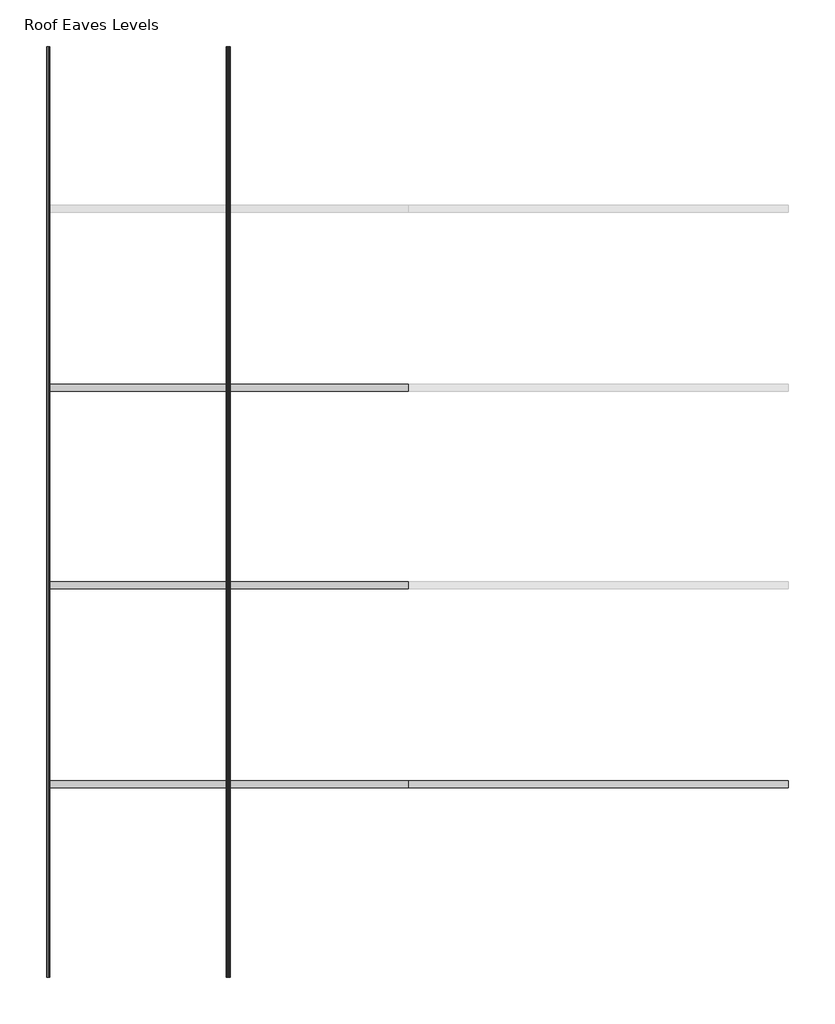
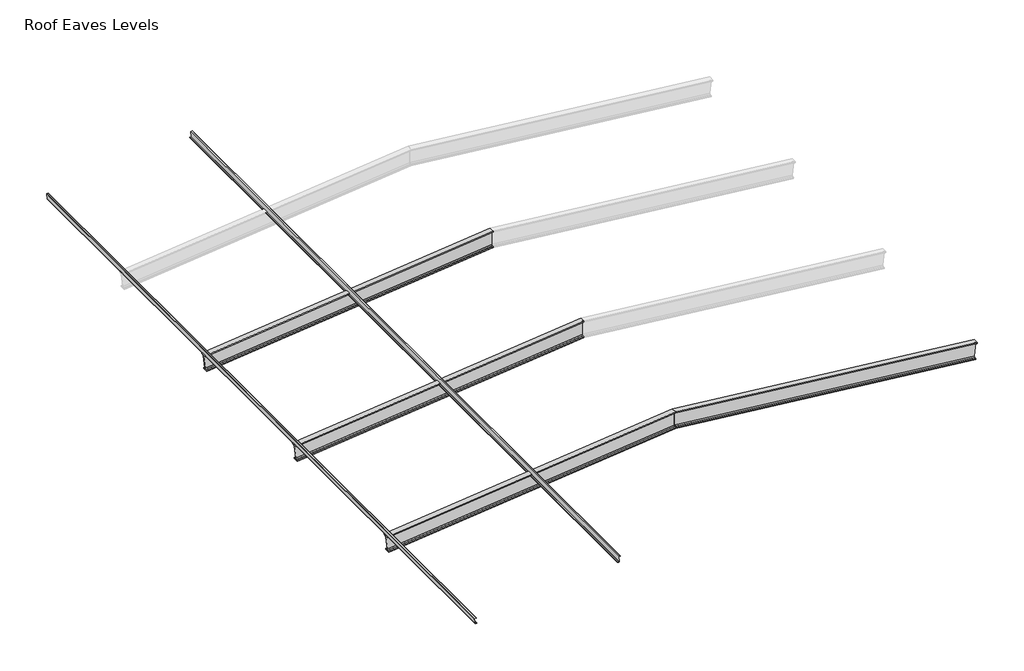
# One storey, part 1 of 2: 6 beams.
"""IFC4 building model written with IfcOpenShell, lengths in millimetres."""

import ifcopenshell
import ifcopenshell.guid

model = None  # the IFC model being written
_history = None  # IfcOwnerHistory: only IFC2X3 demands one
_inside = {}  # id of a spatial element -> (the spatial element, [elements in it])
_under = {}  # id of a project, library or spatial element -> (it, [spatial elements below it])
_declared = {}  # id of a project -> (the project, [libraries it declares])
_typed = {}  # id of a type object -> (the type object, [elements of that type])
_made_of = {}  # id of a material, layer set ... -> (it, [elements and type objects made of it])


def new_model(schema):
    """Start an empty IFC model of exactly this schema.

    Asked for "IFC4X3", IfcOpenShell would pick the latest addendum, in which some entities
    have other attributes; the version numbers below select the first issue.
    IFC2X3 requires an IfcOwnerHistory on every rooted entity: one is made here for all.
    """
    global model, _history
    if schema == "IFC4X3":
        model = ifcopenshell.file(schema_version=(4, 3, 0, 0))
    else:
        model = ifcopenshell.file(schema=schema)
    _inside.clear()
    _under.clear()
    _declared.clear()
    _typed.clear()
    _made_of.clear()
    _history = None
    if model.schema == "IFC2X3":
        org = make("IfcOrganization", Name="unknown")
        user = make(
            "IfcPersonAndOrganization",
            ThePerson=make("IfcPerson", FamilyName="unknown"),
            TheOrganization=org,
        )
        app = make(
            "IfcApplication",
            ApplicationDeveloper=org,
            Version="unknown",
            ApplicationFullName="unknown",
            ApplicationIdentifier="unknown",
        )
        _history = make(
            "IfcOwnerHistory",
            OwningUser=user,
            OwningApplication=app,
            ChangeAction="ADDED",
            CreationDate=0,
        )
    return model


def make(cls, **values):
    """One entity of the class cls with the attributes given. An attribute that is None is left unset."""
    return model.create_entity(
        cls, **{name: value for name, value in values.items() if value is not None}
    )


def rooted(cls, **values):
    """An entity with a GlobalId (a new one), such as an element, a storey or a relation."""
    return make(cls, GlobalId=ifcopenshell.guid.new(), OwnerHistory=_history, **values)


def si_unit(unit_type, name, prefix=None):
    """IfcSIUnit, for example si_unit("LENGTHUNIT", "METRE", prefix="MILLI")."""
    return make("IfcSIUnit", UnitType=unit_type, Prefix=prefix, Name=name)


def assignment(units):
    """IfcUnitAssignment: the units of a project."""
    return None if units is None else make("IfcUnitAssignment", Units=units)


def point(xyz):
    """IfcCartesianPoint."""
    return None if xyz is None else make("IfcCartesianPoint", Coordinates=xyz)


def direction(xyz):
    """IfcDirection."""
    return None if xyz is None else make("IfcDirection", DirectionRatios=xyz)


def frame(location, z_axis=None, x_axis=None):
    """IfcAxis2Placement3D, a coordinate frame: its origin and axes. An axis left out is left unset."""
    return make(
        "IfcAxis2Placement3D",
        Location=point(location),
        Axis=direction(z_axis),
        RefDirection=direction(x_axis),
    )


def frame_2d(location, x_axis=None):
    """IfcAxis2Placement2D, a coordinate frame in the plane: its origin and x axis."""
    return make(
        "IfcAxis2Placement2D", Location=point(location), RefDirection=direction(x_axis)
    )


def origin():
    """The frame at (0, 0, 0) with its axes left unset."""
    return frame((0.0, 0.0, 0.0))


def place(relative_to, where):
    """IfcLocalPlacement: puts the frame where relative to a parent placement (None: the world)."""
    return make(
        "IfcLocalPlacement", PlacementRelTo=relative_to, RelativePlacement=where
    )


def context(
    kind, dimensions, precision=None, world=None, true_north=None, identifier=None
):
    """IfcGeometricRepresentationContext, for example the 3D "Model" context."""
    return make(
        "IfcGeometricRepresentationContext",
        ContextIdentifier=identifier,
        ContextType=kind,
        CoordinateSpaceDimension=dimensions,
        Precision=precision,
        WorldCoordinateSystem=world,
        TrueNorth=true_north,
    )


def project(units=None, contexts=None):
    """IfcProject with its units and contexts."""
    return rooted(
        "IfcProject",
        Name="project",
        RepresentationContexts=contexts,
        UnitsInContext=assignment(units),
    )


def spatial(cls, under=None, at=None, **own):
    """A site, building, storey or space (cls), placed at a placement, below another one or the project."""
    s = rooted(cls, ObjectPlacement=at, **own)
    if under is not None:
        _under.setdefault(under.id(), (under, []))[1].append(s)
    return s


def polyline(points):
    """IfcPolyline through the points."""
    return make("IfcPolyline", Points=[point(p) for p in points])


def circle_curve(where, radius):
    """IfcCircle in the frame where."""
    return make("IfcCircle", Position=where, Radius=radius)


def ellipse_curve(where, semi_axis1, semi_axis2):
    """IfcEllipse in the frame where."""
    return make(
        "IfcEllipse", Position=where, SemiAxis1=semi_axis1, SemiAxis2=semi_axis2
    )


def trimmed(basis, trim1, trim2, sense, master):
    """IfcTrimmedCurve: the piece of a basis curve between two trims."""
    return make(
        "IfcTrimmedCurve",
        BasisCurve=basis,
        Trim1=trim1,
        Trim2=trim2,
        SenseAgreement=sense,
        MasterRepresentation=master,
    )


def segment(curve, same_sense, transition):
    """IfcCompositeCurveSegment."""
    return make(
        "IfcCompositeCurveSegment",
        Transition=transition,
        SameSense=same_sense,
        ParentCurve=curve,
    )


def composite_curve(segments, self_intersect=None):
    """IfcCompositeCurve: segments joined end to end."""
    return make("IfcCompositeCurve", Segments=segments, SelfIntersect=self_intersect)


def outline(outer, holes=None, kind="AREA"):
    """IfcArbitraryClosedProfileDef: a profile drawn as a closed curve; with holes, ...WithVoids."""
    if holes is None:
        return make("IfcArbitraryClosedProfileDef", ProfileType=kind, OuterCurve=outer)
    return make(
        "IfcArbitraryProfileDefWithVoids",
        ProfileType=kind,
        OuterCurve=outer,
        InnerCurves=holes,
    )


def extrude(swept, where, along, depth):
    """IfcExtrudedAreaSolid: the profile swept, set in the frame where, extruded along a direction by depth."""
    return make(
        "IfcExtrudedAreaSolid",
        SweptArea=swept,
        Position=where,
        ExtrudedDirection=direction(along),
        Depth=depth,
    )


def shape(context_of_items, identifier, shape_type, items):
    """IfcShapeRepresentation: the items that make up one representation, for example the "Body"."""
    return make(
        "IfcShapeRepresentation",
        ContextOfItems=context_of_items,
        RepresentationIdentifier=identifier,
        RepresentationType=shape_type,
        Items=items,
    )


def source(mapping_origin, context_of_items, identifier, shape_type, items):
    """IfcRepresentationMap: a shape defined once, which mapped items show again and again."""
    return make(
        "IfcRepresentationMap",
        MappingOrigin=mapping_origin,
        MappedRepresentation=shape(context_of_items, identifier, shape_type, items),
    )


def transform(
    local_origin,
    x_axis=None,
    y_axis=None,
    z_axis=None,
    scale=None,
    scale2=None,
    scale3=None,
    uniform=True,
):
    """IfcCartesianTransformationOperator3D, or its non-uniform kind. x_axis, y_axis, z_axis: its Axis1, 2, 3."""
    if uniform:
        return make(
            "IfcCartesianTransformationOperator3D",
            Axis1=direction(x_axis),
            Axis2=direction(y_axis),
            LocalOrigin=point(local_origin),
            Scale=scale,
            Axis3=direction(z_axis),
        )
    return make(
        "IfcCartesianTransformationOperator3DnonUniform",
        Axis1=direction(x_axis),
        Axis2=direction(y_axis),
        LocalOrigin=point(local_origin),
        Scale=scale,
        Axis3=direction(z_axis),
        Scale2=scale2,
        Scale3=scale3,
    )


def mapped(mapping_source, mapping_target):
    """IfcMappedItem: shows the shape of a source again, moved by a transform."""
    return make(
        "IfcMappedItem", MappingSource=mapping_source, MappingTarget=mapping_target
    )


def made_of(thing, what):
    """Note that an element or type object is made of a material, layer set ...; save() writes the relation."""
    if what is not None:
        _made_of.setdefault(what.id(), (what, []))[1].append(thing)
    return thing


def element(
    cls,
    number,
    at=None,
    inside=None,
    cuts=None,
    type_object=None,
    material=None,
    context=None,
    identifier="Body",
    shape_type=None,
    held_by="IfcProductDefinitionShape",
    body=None,
    shapes=None,
    **own,
):
    """One element of the class cls, such as IfcWall. Its Tag is "e" and its number.

    at: its placement. inside: the storey or other place that contains it. cuts: it is an
    opening in that element (IfcRelVoidsElement). A single representation is given by context,
    identifier, shape_type and body (its items); several are given by shapes. held_by: the class
    of the entity that holds the representations. save() writes the other relations.
    """
    e = rooted(cls, Tag="e%d" % number, ObjectPlacement=at, **own)
    if body is not None:
        shapes = [shape(context, identifier, shape_type, body)]
    if shapes is not None:
        e.Representation = make(held_by, Representations=shapes)
    if inside is not None:
        _inside.setdefault(inside.id(), (inside, []))[1].append(e)
    if cuts is not None:
        rooted(
            "IfcRelVoidsElement", RelatingBuildingElement=cuts, RelatedOpeningElement=e
        )
    if type_object is not None:
        _typed.setdefault(type_object.id(), (type_object, []))[1].append(e)
    return made_of(e, material)


def aggregate(whole, parts):
    """IfcRelAggregates: a whole, such as a stair, and the parts it consists of."""
    return rooted("IfcRelAggregates", RelatingObject=whole, RelatedObjects=parts)


def save(model, path):
    """Write the relations noted so far, then the file.

    IfcRelAggregates (storeys below a building ...), IfcRelContainedInSpatialStructure (elements
    in a storey), IfcRelDefinesByType, IfcRelAssociatesMaterial and IfcRelDeclares: one each for
    every whole, place, type object, material and project.
    """
    for whole, parts in _under.values():
        aggregate(whole, parts)
    for where, things in _inside.values():
        rooted(
            "IfcRelContainedInSpatialStructure",
            RelatedElements=things,
            RelatingStructure=where,
        )
    for kind, things in _typed.values():
        rooted("IfcRelDefinesByType", RelatedObjects=things, RelatingType=kind)
    for what, things in _made_of.values():
        rooted("IfcRelAssociatesMaterial", RelatedObjects=things, RelatingMaterial=what)
    for by, libraries in _declared.values():
        rooted("IfcRelDeclares", RelatingContext=by, RelatedDefinitions=libraries)
    model.write(path)


def plane_surface(at):
    """IfcPlane: the flat surface through the origin of the frame at, square to its z axis."""
    return make("IfcPlane", Position=at)


def revolved_surface(curve, axis_point, axis_direction):
    """IfcSurfaceOfRevolution: the curve turned about the line through axis_point along axis_direction."""
    return make(
        "IfcSurfaceOfRevolution",
        SweptCurve=make("IfcArbitraryOpenProfileDef", ProfileType="CURVE", Curve=curve),
        AxisPosition=make("IfcAxis1Placement", Location=point(axis_point), Axis=direction(axis_direction)),
    )


def advanced_brep(points, edges, surfaces, faces):
    """IfcAdvancedBrep: a solid bounded by faces that lie on surfaces and meet in shared edges.

    An edge is (start, end): straight between two places in points (the first is 0);
    or (start, end, curve); or (start, end, curve, False) where it runs against its curve.
    A face is (place in surfaces, loops), or (place, loops, False) where it looks against
    its surface's normal. A loop lists edges by number (the first is 1), with a minus sign
    where the edge is run from its end to its start. The first loop is the outer one.
    """
    corners = [point(p) for p in points]
    vertices = [make("IfcVertexPoint", VertexGeometry=c) for c in corners]
    made = []
    for start, end, *more in edges:
        made.append(
            make(
                "IfcEdgeCurve",
                EdgeStart=vertices[start],
                EdgeEnd=vertices[end],
                EdgeGeometry=more[0] if more else make("IfcPolyline", Points=[corners[start], corners[end]]),
                SameSense=more[1] if len(more) > 1 else True,
            )
        )
    hull = []
    for where, loops, *sense in faces:
        bounds = []
        for j, loop in enumerate(loops):
            ring = [make("IfcOrientedEdge", EdgeElement=made[abs(k) - 1], Orientation=k > 0) for k in loop]
            bounds.append(
                make(
                    "IfcFaceOuterBound" if j == 0 else "IfcFaceBound",
                    Bound=make("IfcEdgeLoop", EdgeList=ring),
                    Orientation=True,
                )
            )
        hull.append(make("IfcAdvancedFace", Bounds=bounds, FaceSurface=surfaces[where], SameSense=sense[0] if sense else True))
    return make("IfcAdvancedBrep", Outer=make("IfcClosedShell", CfsFaces=hull))


def light_gauge_c_purlin_6e397828(model_context):
    return source(origin(), model_context, "Body", "SweptSolid", [
        extrude(outline(composite_curve([segment(trimmed(circle_curve(frame_2d((-46.7, 97.0)), 4.0), [point((-50.7, 97.0))], [point((-46.7, 101.0))], False, "CARTESIAN"), True, "CONTINUOUS"), segment(polyline([(-46.7, 101.0), (14.3, 101.0)]), True, "CONTINUOUS"), segment(trimmed(circle_curve(frame_2d((14.3, 97.0)), 4.0), [point((14.3, 101.0))], [point((18.3, 97.0))], False, "CARTESIAN"), True, "CONTINUOUS"), segment(polyline([(18.3, 97.0), (18.3, -97.0)]), True, "CONTINUOUS"), segment(trimmed(circle_curve(frame_2d((14.3, -97.0)), 4.0), [point((18.3, -97.0))], [point((14.3, -101.0))], False, "CARTESIAN"), True, "CONTINUOUS"), segment(polyline([(14.3, -101.0), (-46.7, -101.0)]), True, "CONTINUOUS"), segment(trimmed(circle_curve(frame_2d((-46.7, -97.0)), 4.0), [point((-46.7, -101.0))], [point((-50.7, -97.0))], False, "CARTESIAN"), True, "CONTINUOUS"), segment(polyline([(-50.7, -97.0), (-50.7, -87.0), (-48.7, -87.0), (-48.7, -97.0)]), True, "CONTINUOUS"), segment(trimmed(circle_curve(frame_2d((-46.7, -97.0)), 2.0), [point((-48.7, -97.0))], [point((-46.7, -99.0))], True, "CARTESIAN"), True, "CONTINUOUS"), segment(polyline([(-46.7, -99.0), (14.3, -99.0)]), True, "CONTINUOUS"), segment(trimmed(circle_curve(frame_2d((14.3, -97.0)), 2.0), [point((14.3, -99.0))], [point((16.3, -97.0))], True, "CARTESIAN"), True, "CONTINUOUS"), segment(polyline([(16.3, -97.0), (16.3, 97.0)]), True, "CONTINUOUS"), segment(trimmed(circle_curve(frame_2d((14.3, 97.0)), 2.0), [point((16.3, 97.0))], [point((14.3, 99.0))], True, "CARTESIAN"), True, "CONTINUOUS"), segment(polyline([(14.3, 99.0), (-46.7, 99.0)]), True, "CONTINUOUS"), segment(trimmed(circle_curve(frame_2d((-46.7, 97.0)), 2.0), [point((-46.7, 99.0))], [point((-48.7, 97.0))], True, "CARTESIAN"), True, "CONTINUOUS"), segment(polyline([(-48.7, 97.0), (-48.7, 87.0), (-50.7, 87.0), (-50.7, 97.0)]), True, "CONTINUOUS")], self_intersect=False)), frame((-12982.0, 0.0, 0.0), z_axis=(1.0, 0.0, 0.0), x_axis=(0.0, 1.0, 0.0)), (0.0, 0.0, 1.0), 25954.0),
    ])


def light_gauge_zeds_purlin_c0125321(model_context):
    return source(origin(), model_context, "Body", "SweptSolid", [
        extrude(outline(composite_curve([segment(trimmed(circle_curve(frame_2d((55.8, -97.9)), 4.0), [point((59.8, -97.9))], [point((55.8, -101.9))], False, "CARTESIAN"), True, "CONTINUOUS"), segment(polyline([(55.8, -101.9), (3.8, -101.9)]), True, "CONTINUOUS"), segment(trimmed(circle_curve(frame_2d((3.8, -97.9)), 4.0), [point((3.8, -101.9))], [point((-0.2, -97.9))], False, "CARTESIAN"), True, "CONTINUOUS"), segment(polyline([(-0.2, -97.9), (-0.2, 96.1)]), True, "CONTINUOUS"), segment(trimmed(circle_curve(frame_2d((-2.2, 96.1)), 2.0), [point((-0.2, 96.1))], [point((-2.2, 98.1))], True, "CARTESIAN"), True, "CONTINUOUS"), segment(polyline([(-2.2, 98.1), (-59.2, 98.1)]), True, "CONTINUOUS"), segment(trimmed(circle_curve(frame_2d((-59.2, 96.1)), 2.0), [point((-59.2, 98.1))], [point((-61.2, 96.1))], True, "CARTESIAN"), True, "CONTINUOUS"), segment(polyline([(-61.2, 96.1), (-61.2, 81.1), (-63.2, 81.1), (-63.2, 96.1)]), True, "CONTINUOUS"), segment(trimmed(circle_curve(frame_2d((-59.2, 96.1)), 4.0), [point((-63.2, 96.1))], [point((-59.2, 100.1))], False, "CARTESIAN"), True, "CONTINUOUS"), segment(polyline([(-59.2, 100.1), (-2.2, 100.1)]), True, "CONTINUOUS"), segment(trimmed(circle_curve(frame_2d((-2.2, 96.1)), 4.0), [point((-2.2, 100.1))], [point((1.8, 96.1))], False, "CARTESIAN"), True, "CONTINUOUS"), segment(polyline([(1.8, 96.1), (1.8, -97.9)]), True, "CONTINUOUS"), segment(trimmed(circle_curve(frame_2d((3.8, -97.9)), 2.0), [point((1.8, -97.9))], [point((3.8, -99.9))], True, "CARTESIAN"), True, "CONTINUOUS"), segment(polyline([(3.8, -99.9), (55.8, -99.9)]), True, "CONTINUOUS"), segment(trimmed(circle_curve(frame_2d((55.8, -97.9)), 2.0), [point((55.8, -99.9))], [point((57.8, -97.9))], True, "CARTESIAN"), True, "CONTINUOUS"), segment(polyline([(57.8, -97.9), (57.8, -80.9), (59.8, -80.9), (59.8, -97.9)]), True, "CONTINUOUS")], self_intersect=False)), frame((-12982.0, 0.0, 0.0), z_axis=(1.0, 0.0, 0.0), x_axis=(0.0, 1.0, 0.0)), (0.0, 0.0, 1.0), 25954.0),
    ])


model = new_model("IFC4")

# Units and contexts
model_context = context("Model", 3, world=origin())
ifc_project = project(units=[si_unit("LENGTHUNIT", "METRE", prefix="MILLI")], contexts=[model_context])

# Site, building, storey
site = spatial("IfcSite", under=ifc_project)
building = spatial("IfcBuilding", under=site)
storey = spatial("IfcBuildingStorey", under=building, Name="Roof Eaves Levels", Elevation=7900.0)

# Beams
placement = place(None, origin())
element("IfcBeam", 1, ObjectType="I-Beams : I600x190x16", at=placement, inside=storey, context=model_context, shape_type="AdvancedBrep", body=[
    advanced_brep(
    [(-21574.4385281, -16009.7846466, 7382.6858252), (-21570.7114031, -16009.7846466, 7347.8848404), (-21570.7114031, -16199.7846466, 7347.8848404), (-21574.4385281, -16199.7846466, 7382.6858252), (-21574.4385281, -16147.7846466, 7382.6858252), (-21578.1656531, -16112.7846466, 7417.4868099), (-21627.1507246, -16112.7846466, 7874.8711808), (-21630.8778496, -16147.7846466, 7909.6721656), (-21630.8778496, -16199.7846466, 7909.6721656), (-21634.6049746, -16199.7846466, 7944.4731503), (-21634.6049746, -16009.7846466, 7944.4731503), (-21630.8778496, -16009.7846466, 7909.6721656), (-21630.8778496, -16061.7846466, 7909.6721656), (-21627.1507246, -16096.7846466, 7874.8711808), (-21578.1656531, -16096.7846466, 7417.4868099), (-21574.4385281, -16061.7846466, 7382.6858252), (-11529.876801, -16061.7846466, 8458.4409363), (-11529.876801, -16009.7846466, 8458.4409363), (-11529.8856726, -16096.7846466, 8493.6401395), (-11530.0022718, -16096.7846466, 8956.2582389), (-11530.0111435, -16061.7846466, 8991.4574422), (-11530.0111435, -16009.7846466, 8991.4574422), (-11530.0200151, -16009.7846466, 9026.6566454), (-11530.0200151, -16199.7846466, 9026.6566454), (-11530.0111435, -16199.7846466, 8991.4574422), (-11530.0111435, -16147.7846466, 8991.4574422), (-11530.0022718, -16112.7846466, 8956.2582389), (-11529.8856726, -16112.7846466, 8493.6401395), (-11529.876801, -16147.7846466, 8458.4409363), (-11529.876801, -16199.7846466, 8458.4409363), (-11529.8679293, -16199.7846466, 8423.2417331), (-11529.8679293, -16009.7846466, 8423.2417331)],
    [
        (0, 1),
        (1, 2),
        (2, 3),
        (3, 4),
        (4, 5, circle_curve(frame((-21578.1656531, -16147.7846466, 7417.4868099), z_axis=(0.9943138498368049, 0.0, 0.10648928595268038), x_axis=(0.0, -1.0, 0.0)), 35.0)),
        (5, 6),
        (6, 7, circle_curve(frame((-21627.1507246, -16147.7846466, 7874.8711808), z_axis=(0.9943138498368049, 0.0, 0.10648928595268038), x_axis=(0.0, -1.0, 0.0)), 35.0)),
        (7, 8),
        (8, 9),
        (9, 10),
        (10, 11),
        (11, 12),
        (12, 13, circle_curve(frame((-21627.1507246, -16061.7846466, 7874.8711808), z_axis=(0.9943138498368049, 0.0, 0.10648928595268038), x_axis=(0.0, -1.0, 0.0)), 35.0)),
        (13, 14),
        (14, 15, circle_curve(frame((-21578.1656531, -16061.7846466, 7417.4868099), z_axis=(0.9943138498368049, 0.0, 0.10648928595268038), x_axis=(0.0, -1.0, 0.0)), 35.0)),
        (15, 0),
        (16, 17),
        (17, 0),
        (15, 16),
        (18, 16, ellipse_curve(frame((-11529.8856726, -16061.7846466, 8493.6401395), z_axis=(0.9999999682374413, 0.0, 0.0002520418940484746), x_axis=(0.00025204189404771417, 0.0, -0.9999999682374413)), 35.1992043, 35.0)),
        (14, 18),
        (19, 18),
        (13, 19),
        (20, 19, ellipse_curve(frame((-11530.0022718, -16061.7846466, 8956.2582389), z_axis=(0.9999999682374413, 0.0, 0.0002520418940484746), x_axis=(0.00025204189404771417, 0.0, -0.9999999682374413)), 35.1992043, 35.0)),
        (12, 20),
        (21, 20),
        (11, 21),
        (22, 21),
        (10, 22),
        (23, 22),
        (9, 23),
        (24, 23),
        (8, 24),
        (25, 24),
        (7, 25),
        (26, 25, ellipse_curve(frame((-11530.0022718, -16147.7846466, 8956.2582389), z_axis=(0.9999999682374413, 0.0, 0.0002520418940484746), x_axis=(0.00025204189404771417, 0.0, -0.9999999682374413)), 35.1992043, 35.0)),
        (6, 26),
        (27, 26),
        (5, 27),
        (28, 27, ellipse_curve(frame((-11529.8856726, -16147.7846466, 8493.6401395), z_axis=(0.9999999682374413, 0.0, 0.0002520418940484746), x_axis=(0.00025204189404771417, 0.0, -0.9999999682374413)), 35.1992043, 35.0)),
        (4, 28),
        (29, 28),
        (3, 29),
        (30, 29),
        (2, 30),
        (31, 30),
        (1, 31),
        (17, 31),
    ],
    [
        plane_surface(frame((-21602.6581888, -16104.7846466, 7646.1789954), z_axis=(-0.9943138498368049, 0.0, -0.10648928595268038), x_axis=(-0.10648928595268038, 0.0, 0.9943138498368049))),
        plane_surface(frame((-11469.8535686, -16009.7846466, 8464.8693202), z_axis=(-0.10648928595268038, 0.0, 0.9943138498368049), x_axis=(-0.9943138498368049, 0.0, -0.10648928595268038))),
        revolved_surface(polyline([(-21578.165653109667, -16096.7846466, 7417.486809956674), (-11526.167419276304, -16096.7846466, 8494.038358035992)]), (-11473.5806936, -16061.7846466, 8499.670305), (-0.9943138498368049, 0.0, -0.10648928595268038)),
        plane_surface(frame((-11473.5806936, -16096.7846466, 8499.670305), z_axis=(0.0, 1.0, 0.0), x_axis=(-0.9943138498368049, 0.0, -0.10648928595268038))),
        revolved_surface(polyline([(-21627.15072460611, -16096.7846466, 7874.871180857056), (-11526.284018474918, -16096.7846466, 8956.656457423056)]), (-11522.5657651, -16061.7846466, 8957.0546759), (-0.9943138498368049, 0.0, -0.10648928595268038)),
        plane_surface(frame((-11526.2928901, -16061.7846466, 8991.8556606), z_axis=(0.10648928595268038, 0.0, -0.9943138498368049), x_axis=(-0.9943138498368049, 0.0, -0.10648928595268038))),
        plane_surface(frame((-11526.2928901, -16009.7846466, 8991.8556606), z_axis=(0.0, 1.0, 0.0), x_axis=(-0.9943138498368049, 0.0, -0.10648928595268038))),
        plane_surface(frame((-11530.0200151, -16009.7846466, 9026.6566454), z_axis=(-0.10648928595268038, 0.0, 0.9943138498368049), x_axis=(-0.9943138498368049, 0.0, -0.10648928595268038))),
        plane_surface(frame((-11530.0200151, -16199.7846466, 9026.6566454), z_axis=(0.0, -1.0, 0.0), x_axis=(-0.9943138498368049, 0.0, -0.10648928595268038))),
        plane_surface(frame((-11526.2928901, -16199.7846466, 8991.8556606), z_axis=(0.10648928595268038, 0.0, -0.9943138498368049), x_axis=(-0.9943138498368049, 0.0, -0.10648928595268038))),
        revolved_surface(polyline([(-21627.15072460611, -16182.7846466, 7874.871180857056), (-11526.284018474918, -16182.7846466, 8956.656457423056)]), (-11522.5657651, -16147.7846466, 8957.0546759), (-0.9943138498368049, 0.0, -0.10648928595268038)),
        plane_surface(frame((-11522.5657651, -16112.7846466, 8957.0546759), z_axis=(0.0, -1.0, 0.0), x_axis=(-0.9943138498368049, 0.0, -0.10648928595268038))),
        revolved_surface(polyline([(-21578.165653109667, -16182.7846466, 7417.486809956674), (-11526.167419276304, -16182.7846466, 8494.038358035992)]), (-11473.5806936, -16147.7846466, 8499.670305), (-0.9943138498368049, 0.0, -0.10648928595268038)),
        plane_surface(frame((-11469.8535686, -16147.7846466, 8464.8693202), z_axis=(-0.10648928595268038, 0.0, 0.9943138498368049), x_axis=(-0.9943138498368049, 0.0, -0.10648928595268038))),
        plane_surface(frame((-11469.8535686, -16199.7846466, 8464.8693202), z_axis=(0.0, -1.0, 0.0), x_axis=(-0.9943138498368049, 0.0, -0.10648928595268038))),
        plane_surface(frame((-11466.1264436, -16199.7846466, 8430.0683355), z_axis=(0.10648928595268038, 0.0, -0.9943138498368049), x_axis=(-0.9943138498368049, 0.0, -0.10648928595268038))),
        plane_surface(frame((-11466.1264436, -16009.7846466, 8430.0683355), z_axis=(0.0, 1.0, 0.0), x_axis=(-0.9943138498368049, 0.0, -0.10648928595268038))),
        plane_surface(frame((-11530.0200151, -16104.7846466, 9026.6566454), z_axis=(0.9999999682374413, 0.0, 0.0002520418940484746), x_axis=(0.0, -1.0, 0.0))),
    ],
    [
        (0, [[1, 2, 3, 4, 5, 6, 7, 8, 9, 10, 11, 12, 13, 14, 15, 16]]),
        (1, [[17, 18, -16, 19]]),
        (2, [[20, -19, -15, 21]]),
        (3, [[22, -21, -14, 23]]),
        (4, [[24, -23, -13, 25]]),
        (5, [[26, -25, -12, 27]]),
        (6, [[28, -27, -11, 29]]),
        (7, [[30, -29, -10, 31]]),
        (8, [[32, -31, -9, 33]]),
        (9, [[34, -33, -8, 35]]),
        (10, [[36, -35, -7, 37]]),
        (11, [[38, -37, -6, 39]]),
        (12, [[40, -39, -5, 41]]),
        (13, [[42, -41, -4, 43]]),
        (14, [[44, -43, -3, 45]]),
        (15, [[46, -45, -2, 47]]),
        (16, [[48, -47, -1, -18]]),
        (17, [[-17, -20, -22, -24, -26, -28, -30, -32, -34, -36, -38, -40, -42, -44, -46, -48]]),
    ],
),
])
element("IfcBeam", 2, ObjectType="I-Beams : I600x190x16", at=placement, inside=storey, context=model_context, shape_type="AdvancedBrep", body=[
    advanced_brep(
    [(-21574.4385281, -21509.7846466, 7382.6858252), (-21570.7114031, -21509.7846466, 7347.8848404), (-21570.7114031, -21699.7846466, 7347.8848404), (-21574.4385281, -21699.7846466, 7382.6858252), (-21574.4385281, -21647.7846466, 7382.6858252), (-21578.1656531, -21612.7846466, 7417.4868099), (-21627.1507246, -21612.7846466, 7874.8711808), (-21630.8778496, -21647.7846466, 7909.6721656), (-21630.8778496, -21699.7846466, 7909.6721656), (-21634.6049746, -21699.7846466, 7944.4731503), (-21634.6049746, -21509.7846466, 7944.4731503), (-21630.8778496, -21509.7846466, 7909.6721656), (-21630.8778496, -21561.7846466, 7909.6721656), (-21627.1507246, -21596.7846466, 7874.8711808), (-21578.1656531, -21596.7846466, 7417.4868099), (-21574.4385281, -21561.7846466, 7382.6858252), (-11529.876801, -21561.7846466, 8458.4409363), (-11529.876801, -21509.7846466, 8458.4409363), (-11529.8856726, -21596.7846466, 8493.6401395), (-11530.0022718, -21596.7846466, 8956.2582389), (-11530.0111435, -21561.7846466, 8991.4574422), (-11530.0111435, -21509.7846466, 8991.4574422), (-11530.0200151, -21509.7846466, 9026.6566454), (-11530.0200151, -21699.7846466, 9026.6566454), (-11530.0111435, -21699.7846466, 8991.4574422), (-11530.0111435, -21647.7846466, 8991.4574422), (-11530.0022718, -21612.7846466, 8956.2582389), (-11529.8856726, -21612.7846466, 8493.6401395), (-11529.876801, -21647.7846466, 8458.4409363), (-11529.876801, -21699.7846466, 8458.4409363), (-11529.8679293, -21699.7846466, 8423.2417331), (-11529.8679293, -21509.7846466, 8423.2417331)],
    [
        (0, 1),
        (1, 2),
        (2, 3),
        (3, 4),
        (4, 5, circle_curve(frame((-21578.1656531, -21647.7846466, 7417.4868099), z_axis=(0.9943138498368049, 0.0, 0.10648928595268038), x_axis=(0.0, -1.0, 0.0)), 35.0)),
        (5, 6),
        (6, 7, circle_curve(frame((-21627.1507246, -21647.7846466, 7874.8711808), z_axis=(0.9943138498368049, 0.0, 0.10648928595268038), x_axis=(0.0, -1.0, 0.0)), 35.0)),
        (7, 8),
        (8, 9),
        (9, 10),
        (10, 11),
        (11, 12),
        (12, 13, circle_curve(frame((-21627.1507246, -21561.7846466, 7874.8711808), z_axis=(0.9943138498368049, 0.0, 0.10648928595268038), x_axis=(0.0, -1.0, 0.0)), 35.0)),
        (13, 14),
        (14, 15, circle_curve(frame((-21578.1656531, -21561.7846466, 7417.4868099), z_axis=(0.9943138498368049, 0.0, 0.10648928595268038), x_axis=(0.0, -1.0, 0.0)), 35.0)),
        (15, 0),
        (16, 17),
        (17, 0),
        (15, 16),
        (18, 16, ellipse_curve(frame((-11529.8856726, -21561.7846466, 8493.6401395), z_axis=(0.9999999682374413, 0.0, 0.0002520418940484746), x_axis=(0.00025204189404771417, 0.0, -0.9999999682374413)), 35.1992043, 35.0)),
        (14, 18),
        (19, 18),
        (13, 19),
        (20, 19, ellipse_curve(frame((-11530.0022718, -21561.7846466, 8956.2582389), z_axis=(0.9999999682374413, 0.0, 0.0002520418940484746), x_axis=(0.00025204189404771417, 0.0, -0.9999999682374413)), 35.1992043, 35.0)),
        (12, 20),
        (21, 20),
        (11, 21),
        (22, 21),
        (10, 22),
        (23, 22),
        (9, 23),
        (24, 23),
        (8, 24),
        (25, 24),
        (7, 25),
        (26, 25, ellipse_curve(frame((-11530.0022718, -21647.7846466, 8956.2582389), z_axis=(0.9999999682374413, 0.0, 0.0002520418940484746), x_axis=(0.00025204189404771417, 0.0, -0.9999999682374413)), 35.1992043, 35.0)),
        (6, 26),
        (27, 26),
        (5, 27),
        (28, 27, ellipse_curve(frame((-11529.8856726, -21647.7846466, 8493.6401395), z_axis=(0.9999999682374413, 0.0, 0.0002520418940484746), x_axis=(0.00025204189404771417, 0.0, -0.9999999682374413)), 35.1992043, 35.0)),
        (4, 28),
        (29, 28),
        (3, 29),
        (30, 29),
        (2, 30),
        (31, 30),
        (1, 31),
        (17, 31),
    ],
    [
        plane_surface(frame((-21602.6581888, -21604.7846466, 7646.1789954), z_axis=(-0.9943138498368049, 0.0, -0.10648928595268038), x_axis=(-0.10648928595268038, 0.0, 0.9943138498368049))),
        plane_surface(frame((-11469.8535686, -21509.7846466, 8464.8693202), z_axis=(-0.10648928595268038, 0.0, 0.9943138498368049), x_axis=(-0.9943138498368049, 0.0, -0.10648928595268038))),
        revolved_surface(polyline([(-21578.165653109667, -21596.7846466, 7417.486809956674), (-11526.167419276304, -21596.7846466, 8494.038358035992)]), (-11473.5806936, -21561.7846466, 8499.670305), (-0.9943138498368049, 0.0, -0.10648928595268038)),
        plane_surface(frame((-11473.5806936, -21596.7846466, 8499.670305), z_axis=(0.0, 1.0, 0.0), x_axis=(-0.9943138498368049, 0.0, -0.10648928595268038))),
        revolved_surface(polyline([(-21627.15072460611, -21596.7846466, 7874.871180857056), (-11526.284018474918, -21596.7846466, 8956.656457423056)]), (-11522.5657651, -21561.7846466, 8957.0546759), (-0.9943138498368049, 0.0, -0.10648928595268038)),
        plane_surface(frame((-11526.2928901, -21561.7846466, 8991.8556606), z_axis=(0.10648928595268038, 0.0, -0.9943138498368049), x_axis=(-0.9943138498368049, 0.0, -0.10648928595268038))),
        plane_surface(frame((-11526.2928901, -21509.7846466, 8991.8556606), z_axis=(0.0, 1.0, 0.0), x_axis=(-0.9943138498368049, 0.0, -0.10648928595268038))),
        plane_surface(frame((-11530.0200151, -21509.7846466, 9026.6566454), z_axis=(-0.10648928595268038, 0.0, 0.9943138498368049), x_axis=(-0.9943138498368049, 0.0, -0.10648928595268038))),
        plane_surface(frame((-11530.0200151, -21699.7846466, 9026.6566454), z_axis=(0.0, -1.0, 0.0), x_axis=(-0.9943138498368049, 0.0, -0.10648928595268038))),
        plane_surface(frame((-11526.2928901, -21699.7846466, 8991.8556606), z_axis=(0.10648928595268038, 0.0, -0.9943138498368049), x_axis=(-0.9943138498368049, 0.0, -0.10648928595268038))),
        revolved_surface(polyline([(-21627.15072460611, -21682.7846466, 7874.871180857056), (-11526.284018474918, -21682.7846466, 8956.656457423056)]), (-11522.5657651, -21647.7846466, 8957.0546759), (-0.9943138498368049, 0.0, -0.10648928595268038)),
        plane_surface(frame((-11522.5657651, -21612.7846466, 8957.0546759), z_axis=(0.0, -1.0, 0.0), x_axis=(-0.9943138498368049, 0.0, -0.10648928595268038))),
        revolved_surface(polyline([(-21578.165653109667, -21682.7846466, 7417.486809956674), (-11526.167419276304, -21682.7846466, 8494.038358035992)]), (-11473.5806936, -21647.7846466, 8499.670305), (-0.9943138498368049, 0.0, -0.10648928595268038)),
        plane_surface(frame((-11469.8535686, -21647.7846466, 8464.8693202), z_axis=(-0.10648928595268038, 0.0, 0.9943138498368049), x_axis=(-0.9943138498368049, 0.0, -0.10648928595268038))),
        plane_surface(frame((-11469.8535686, -21699.7846466, 8464.8693202), z_axis=(0.0, -1.0, 0.0), x_axis=(-0.9943138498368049, 0.0, -0.10648928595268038))),
        plane_surface(frame((-11466.1264436, -21699.7846466, 8430.0683355), z_axis=(0.10648928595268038, 0.0, -0.9943138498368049), x_axis=(-0.9943138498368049, 0.0, -0.10648928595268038))),
        plane_surface(frame((-11466.1264436, -21509.7846466, 8430.0683355), z_axis=(0.0, 1.0, 0.0), x_axis=(-0.9943138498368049, 0.0, -0.10648928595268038))),
        plane_surface(frame((-11530.0200151, -21604.7846466, 9026.6566454), z_axis=(0.9999999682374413, 0.0, 0.0002520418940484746), x_axis=(0.0, -1.0, 0.0))),
    ],
    [
        (0, [[1, 2, 3, 4, 5, 6, 7, 8, 9, 10, 11, 12, 13, 14, 15, 16]]),
        (1, [[17, 18, -16, 19]]),
        (2, [[20, -19, -15, 21]]),
        (3, [[22, -21, -14, 23]]),
        (4, [[24, -23, -13, 25]]),
        (5, [[26, -25, -12, 27]]),
        (6, [[28, -27, -11, 29]]),
        (7, [[30, -29, -10, 31]]),
        (8, [[32, -31, -9, 33]]),
        (9, [[34, -33, -8, 35]]),
        (10, [[36, -35, -7, 37]]),
        (11, [[38, -37, -6, 39]]),
        (12, [[40, -39, -5, 41]]),
        (13, [[42, -41, -4, 43]]),
        (14, [[44, -43, -3, 45]]),
        (15, [[46, -45, -2, 47]]),
        (16, [[48, -47, -1, -18]]),
        (17, [[-17, -20, -22, -24, -26, -28, -30, -32, -34, -36, -38, -40, -42, -44, -46, -48]]),
    ],
),
])
element("IfcBeam", 3, ObjectType="I-Beams : I600x190x16", at=placement, inside=storey, context=model_context, shape_type="AdvancedBrep", body=[
    advanced_brep(
    [(-21574.4385281, -27059.7846468, 7382.6858252), (-21570.7114031, -27059.7846468, 7347.8848404), (-21570.7114031, -27249.7846468, 7347.8848404), (-21574.4385281, -27249.7846468, 7382.6858252), (-21574.4385281, -27197.7846468, 7382.6858252), (-21578.1656531, -27162.7846468, 7417.4868099), (-21627.1507246, -27162.7846468, 7874.8711808), (-21630.8778496, -27197.7846468, 7909.6721656), (-21630.8778496, -27249.7846468, 7909.6721656), (-21634.6049746, -27249.7846468, 7944.4731503), (-21634.6049746, -27059.7846468, 7944.4731503), (-21630.8778496, -27059.7846468, 7909.6721656), (-21630.8778496, -27111.7846468, 7909.6721656), (-21627.1507246, -27146.7846468, 7874.8711808), (-21578.1656531, -27146.7846468, 7417.4868099), (-21574.4385281, -27111.7846468, 7382.6858252), (-11529.876801, -27111.7846468, 8458.4409363), (-11529.876801, -27059.7846468, 8458.4409363), (-11529.8856726, -27146.7846468, 8493.6401395), (-11530.0022718, -27146.7846468, 8956.2582389), (-11530.0111435, -27111.7846468, 8991.4574422), (-11530.0111435, -27059.7846468, 8991.4574422), (-11530.0200151, -27059.7846468, 9026.6566454), (-11530.0200151, -27249.7846468, 9026.6566454), (-11530.0111435, -27249.7846468, 8991.4574422), (-11530.0111435, -27197.7846468, 8991.4574422), (-11530.0022718, -27162.7846468, 8956.2582389), (-11529.8856726, -27162.7846468, 8493.6401395), (-11529.876801, -27197.7846468, 8458.4409363), (-11529.876801, -27249.7846468, 8458.4409363), (-11529.8679293, -27249.7846468, 8423.2417331), (-11529.8679293, -27059.7846468, 8423.2417331)],
    [
        (0, 1),
        (1, 2),
        (2, 3),
        (3, 4),
        (4, 5, circle_curve(frame((-21578.1656531, -27197.7846468, 7417.4868099), z_axis=(0.9943138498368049, 0.0, 0.10648928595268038), x_axis=(0.0, -1.0, 0.0)), 35.0)),
        (5, 6),
        (6, 7, circle_curve(frame((-21627.1507246, -27197.7846468, 7874.8711808), z_axis=(0.9943138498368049, 0.0, 0.10648928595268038), x_axis=(0.0, -1.0, 0.0)), 35.0)),
        (7, 8),
        (8, 9),
        (9, 10),
        (10, 11),
        (11, 12),
        (12, 13, circle_curve(frame((-21627.1507246, -27111.7846468, 7874.8711808), z_axis=(0.9943138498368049, 0.0, 0.10648928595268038), x_axis=(0.0, -1.0, 0.0)), 35.0)),
        (13, 14),
        (14, 15, circle_curve(frame((-21578.1656531, -27111.7846468, 7417.4868099), z_axis=(0.9943138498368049, 0.0, 0.10648928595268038), x_axis=(0.0, -1.0, 0.0)), 35.0)),
        (15, 0),
        (16, 17),
        (17, 0),
        (15, 16),
        (18, 16, ellipse_curve(frame((-11529.8856726, -27111.7846468, 8493.6401395), z_axis=(0.9999999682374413, 0.0, 0.0002520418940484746), x_axis=(0.00025204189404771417, 0.0, -0.9999999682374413)), 35.1992043, 35.0)),
        (14, 18),
        (19, 18),
        (13, 19),
        (20, 19, ellipse_curve(frame((-11530.0022718, -27111.7846468, 8956.2582389), z_axis=(0.9999999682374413, 0.0, 0.0002520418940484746), x_axis=(0.00025204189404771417, 0.0, -0.9999999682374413)), 35.1992043, 35.0)),
        (12, 20),
        (21, 20),
        (11, 21),
        (22, 21),
        (10, 22),
        (23, 22),
        (9, 23),
        (24, 23),
        (8, 24),
        (25, 24),
        (7, 25),
        (26, 25, ellipse_curve(frame((-11530.0022718, -27197.7846468, 8956.2582389), z_axis=(0.9999999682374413, 0.0, 0.0002520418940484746), x_axis=(0.00025204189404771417, 0.0, -0.9999999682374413)), 35.1992043, 35.0)),
        (6, 26),
        (27, 26),
        (5, 27),
        (28, 27, ellipse_curve(frame((-11529.8856726, -27197.7846468, 8493.6401395), z_axis=(0.9999999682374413, 0.0, 0.0002520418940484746), x_axis=(0.00025204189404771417, 0.0, -0.9999999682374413)), 35.1992043, 35.0)),
        (4, 28),
        (29, 28),
        (3, 29),
        (30, 29),
        (2, 30),
        (31, 30),
        (1, 31),
        (17, 31),
    ],
    [
        plane_surface(frame((-21602.6581888, -27154.7846468, 7646.1789954), z_axis=(-0.9943138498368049, 0.0, -0.10648928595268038), x_axis=(-0.10648928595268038, 0.0, 0.9943138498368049))),
        plane_surface(frame((-11469.8535686, -27059.7846468, 8464.8693202), z_axis=(-0.10648928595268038, 0.0, 0.9943138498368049), x_axis=(-0.9943138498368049, 0.0, -0.10648928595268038))),
        revolved_surface(polyline([(-21578.165653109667, -27146.7846468, 7417.486809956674), (-11526.167419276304, -27146.7846468, 8494.038358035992)]), (-11473.5806936, -27111.7846468, 8499.670305), (-0.9943138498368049, 0.0, -0.10648928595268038)),
        plane_surface(frame((-11473.5806936, -27146.7846468, 8499.670305), z_axis=(0.0, 1.0, 0.0), x_axis=(-0.9943138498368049, 0.0, -0.10648928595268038))),
        revolved_surface(polyline([(-21627.15072460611, -27146.7846468, 7874.871180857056), (-11526.284018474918, -27146.7846468, 8956.656457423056)]), (-11522.5657651, -27111.7846468, 8957.0546759), (-0.9943138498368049, 0.0, -0.10648928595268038)),
        plane_surface(frame((-11526.2928901, -27111.7846468, 8991.8556606), z_axis=(0.10648928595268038, 0.0, -0.9943138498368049), x_axis=(-0.9943138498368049, 0.0, -0.10648928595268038))),
        plane_surface(frame((-11526.2928901, -27059.7846468, 8991.8556606), z_axis=(0.0, 1.0, 0.0), x_axis=(-0.9943138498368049, 0.0, -0.10648928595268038))),
        plane_surface(frame((-11530.0200151, -27059.7846468, 9026.6566454), z_axis=(-0.10648928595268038, 0.0, 0.9943138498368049), x_axis=(-0.9943138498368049, 0.0, -0.10648928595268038))),
        plane_surface(frame((-11530.0200151, -27249.7846468, 9026.6566454), z_axis=(0.0, -1.0, 0.0), x_axis=(-0.9943138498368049, 0.0, -0.10648928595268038))),
        plane_surface(frame((-11526.2928901, -27249.7846468, 8991.8556606), z_axis=(0.10648928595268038, 0.0, -0.9943138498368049), x_axis=(-0.9943138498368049, 0.0, -0.10648928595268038))),
        revolved_surface(polyline([(-21627.15072460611, -27232.7846468, 7874.871180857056), (-11526.284018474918, -27232.7846468, 8956.656457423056)]), (-11522.5657651, -27197.7846468, 8957.0546759), (-0.9943138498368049, 0.0, -0.10648928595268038)),
        plane_surface(frame((-11522.5657651, -27162.7846468, 8957.0546759), z_axis=(0.0, -1.0, 0.0), x_axis=(-0.9943138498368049, 0.0, -0.10648928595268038))),
        revolved_surface(polyline([(-21578.165653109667, -27232.7846468, 7417.486809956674), (-11526.167419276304, -27232.7846468, 8494.038358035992)]), (-11473.5806936, -27197.7846468, 8499.670305), (-0.9943138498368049, 0.0, -0.10648928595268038)),
        plane_surface(frame((-11469.8535686, -27197.7846468, 8464.8693202), z_axis=(-0.10648928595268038, 0.0, 0.9943138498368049), x_axis=(-0.9943138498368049, 0.0, -0.10648928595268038))),
        plane_surface(frame((-11469.8535686, -27249.7846468, 8464.8693202), z_axis=(0.0, -1.0, 0.0), x_axis=(-0.9943138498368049, 0.0, -0.10648928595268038))),
        plane_surface(frame((-11466.1264436, -27249.7846468, 8430.0683355), z_axis=(0.10648928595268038, 0.0, -0.9943138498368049), x_axis=(-0.9943138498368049, 0.0, -0.10648928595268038))),
        plane_surface(frame((-11466.1264436, -27059.7846468, 8430.0683355), z_axis=(0.0, 1.0, 0.0), x_axis=(-0.9943138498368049, 0.0, -0.10648928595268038))),
        plane_surface(frame((-11530.0200151, -27154.7846468, 9026.6566454), z_axis=(0.9999999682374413, 0.0, 0.0002520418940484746), x_axis=(0.0, -1.0, 0.0))),
    ],
    [
        (0, [[1, 2, 3, 4, 5, 6, 7, 8, 9, 10, 11, 12, 13, 14, 15, 16]]),
        (1, [[17, 18, -16, 19]]),
        (2, [[20, -19, -15, 21]]),
        (3, [[22, -21, -14, 23]]),
        (4, [[24, -23, -13, 25]]),
        (5, [[26, -25, -12, 27]]),
        (6, [[28, -27, -11, 29]]),
        (7, [[30, -29, -10, 31]]),
        (8, [[32, -31, -9, 33]]),
        (9, [[34, -33, -8, 35]]),
        (10, [[36, -35, -7, 37]]),
        (11, [[38, -37, -6, 39]]),
        (12, [[40, -39, -5, 41]]),
        (13, [[42, -41, -4, 43]]),
        (14, [[44, -43, -3, 45]]),
        (15, [[46, -45, -2, 47]]),
        (16, [[48, -47, -1, -18]]),
        (17, [[-17, -20, -22, -24, -26, -28, -30, -32, -34, -36, -38, -40, -42, -44, -46, -48]]),
    ],
),
])
element("IfcBeam", 4, ObjectType="I-Beams : I600x190x16", at=placement, inside=storey, context=model_context, shape_type="AdvancedBrep", body=[
    advanced_brep(
    [(-1019.7444776, -27059.7846468, 7338.1824898), (-1019.7444776, -27111.7846468, 7338.1824898), (-1016.0348956, -27146.7846468, 7372.9853489), (-967.2803904, -27146.7846468, 7830.3943543), (-963.5708084, -27111.7846468, 7865.1972134), (-963.5708084, -27059.7846468, 7865.1972134), (-959.8612265, -27059.7846468, 7900.0000725), (-959.8612265, -27249.7846468, 7900.0000725), (-963.5708084, -27249.7846468, 7865.1972134), (-963.5708084, -27197.7846468, 7865.1972134), (-967.2803904, -27162.7846468, 7830.3943543), (-1016.0348956, -27162.7846468, 7372.9853489), (-1019.7444776, -27197.7846468, 7338.1824898), (-1019.7444776, -27249.7846468, 7338.1824898), (-1023.4540595, -27249.7846468, 7303.3796307), (-1023.4540595, -27059.7846468, 7303.3796307), (-11529.876801, -27059.7846468, 8458.4409363), (-11529.876801, -27111.7846468, 8458.4409363), (-11529.8856726, -27146.7846468, 8493.6401395), (-11530.0022718, -27146.7846468, 8956.2582389), (-11530.0111435, -27111.7846468, 8991.4574422), (-11530.0111435, -27059.7846468, 8991.4574422), (-11530.0200151, -27059.7846468, 9026.6566454), (-11530.0200151, -27249.7846468, 9026.6566454), (-11530.0111435, -27249.7846468, 8991.4574422), (-11530.0111435, -27197.7846468, 8991.4574422), (-11530.0022718, -27162.7846468, 8956.2582389), (-11529.8856726, -27162.7846468, 8493.6401395), (-11529.876801, -27197.7846468, 8458.4409363), (-11529.876801, -27249.7846468, 8458.4409363), (-11529.8679293, -27249.7846468, 8423.2417331), (-11529.8679293, -27059.7846468, 8423.2417331)],
    [
        (0, 1),
        (1, 2, circle_curve(frame((-1016.0348956, -27111.7846468, 7372.9853489), z_axis=(-0.9943674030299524, 0.0, 0.1059880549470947), x_axis=(0.0, -1.0, 0.0)), 35.0)),
        (2, 3),
        (3, 4, circle_curve(frame((-967.2803904, -27111.7846468, 7830.3943543), z_axis=(-0.9943674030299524, 0.0, 0.1059880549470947), x_axis=(0.0, -1.0, 0.0)), 35.0)),
        (4, 5),
        (5, 6),
        (6, 7),
        (7, 8),
        (8, 9),
        (9, 10, circle_curve(frame((-967.2803904, -27197.7846468, 7830.3943543), z_axis=(-0.9943674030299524, 0.0, 0.1059880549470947), x_axis=(0.0, -1.0, 0.0)), 35.0)),
        (10, 11),
        (11, 12, circle_curve(frame((-1016.0348956, -27197.7846468, 7372.9853489), z_axis=(-0.9943674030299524, 0.0, 0.1059880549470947), x_axis=(0.0, -1.0, 0.0)), 35.0)),
        (12, 13),
        (13, 14),
        (14, 15),
        (15, 0),
        (0, 16),
        (16, 17),
        (17, 1),
        (17, 18, ellipse_curve(frame((-11529.8856726, -27111.7846468, 8493.6401395), z_axis=(-0.9999999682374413, 0.0, -0.0002520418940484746), x_axis=(-0.00025204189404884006, 0.0, 0.9999999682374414)), 35.1992043, 35.0)),
        (18, 2),
        (18, 19),
        (19, 3),
        (19, 20, ellipse_curve(frame((-11530.0022718, -27111.7846468, 8956.2582389), z_axis=(-0.9999999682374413, 0.0, -0.0002520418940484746), x_axis=(-0.00025204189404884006, 0.0, 0.9999999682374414)), 35.1992043, 35.0)),
        (20, 4),
        (20, 21),
        (21, 5),
        (21, 22),
        (22, 6),
        (22, 23),
        (23, 7),
        (23, 24),
        (24, 8),
        (24, 25),
        (25, 9),
        (25, 26, ellipse_curve(frame((-11530.0022718, -27197.7846468, 8956.2582389), z_axis=(-0.9999999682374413, 0.0, -0.0002520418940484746), x_axis=(-0.00025204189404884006, 0.0, 0.9999999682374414)), 35.1992043, 35.0)),
        (26, 10),
        (26, 27),
        (27, 11),
        (27, 28, ellipse_curve(frame((-11529.8856726, -27197.7846468, 8493.6401395), z_axis=(-0.9999999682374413, 0.0, -0.0002520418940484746), x_axis=(-0.00025204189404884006, 0.0, 0.9999999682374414)), 35.1992043, 35.0)),
        (28, 12),
        (28, 29),
        (29, 13),
        (29, 30),
        (30, 14),
        (30, 31),
        (31, 15),
        (31, 16),
    ],
    [
        plane_surface(frame((-991.657643, -27154.7846468, 7601.6898516), z_axis=(0.9943674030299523, 0.0, -0.10598805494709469), x_axis=(0.10598805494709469, 0.0, 0.9943674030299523))),
        plane_surface(frame((-1019.7444776, -27059.7846468, 7338.1824898), z_axis=(0.1059880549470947, 0.0, 0.9943674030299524), x_axis=(-0.9943674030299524, 0.0, 0.1059880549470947))),
        revolved_surface(polyline([(-11533.604126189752, -27146.7846468, 8494.03648364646), (-1016.0348956, -27146.7846468, 7372.9853489)]), (-1016.0348956, -27111.7846468, 7372.9853489), (-0.9943674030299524, 0.0, 0.1059880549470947)),
        plane_surface(frame((-1016.0348956, -27146.7846468, 7372.9853489), z_axis=(0.0, 1.0, 0.0), x_axis=(-0.9943674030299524, 0.0, 0.1059880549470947))),
        revolved_surface(polyline([(-11533.720725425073, -27146.7846468, 8956.654583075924), (-967.2803903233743, -27146.7846468, 7830.394354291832)]), (-967.2803904, -27111.7846468, 7830.3943543), (-0.9943674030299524, 0.0, 0.1059880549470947)),
        plane_surface(frame((-963.5708084, -27111.7846468, 7865.1972134), z_axis=(-0.1059880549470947, 0.0, -0.9943674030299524), x_axis=(-0.9943674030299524, 0.0, 0.1059880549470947))),
        plane_surface(frame((-963.5708084, -27059.7846468, 7865.1972134), z_axis=(0.0, 1.0, 0.0), x_axis=(-0.9943674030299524, 0.0, 0.1059880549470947))),
        plane_surface(frame((-959.8612265, -27059.7846468, 7900.0000725), z_axis=(0.1059880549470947, 0.0, 0.9943674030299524), x_axis=(-0.9943674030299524, 0.0, 0.1059880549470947))),
        plane_surface(frame((-959.8612265, -27249.7846468, 7900.0000725), z_axis=(0.0, -1.0, 0.0), x_axis=(-0.9943674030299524, 0.0, 0.1059880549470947))),
        plane_surface(frame((-963.5708084, -27249.7846468, 7865.1972134), z_axis=(-0.1059880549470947, 0.0, -0.9943674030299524), x_axis=(-0.9943674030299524, 0.0, 0.1059880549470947))),
        revolved_surface(polyline([(-11533.720725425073, -27232.7846468, 8956.654583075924), (-967.2803903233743, -27232.7846468, 7830.394354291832)]), (-967.2803904, -27197.7846468, 7830.3943543), (-0.9943674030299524, 0.0, 0.1059880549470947)),
        plane_surface(frame((-967.2803904, -27162.7846468, 7830.3943543), z_axis=(0.0, -1.0, 0.0), x_axis=(-0.9943674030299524, 0.0, 0.1059880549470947))),
        revolved_surface(polyline([(-11533.604126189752, -27232.7846468, 8494.03648364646), (-1016.0348956, -27232.7846468, 7372.9853489)]), (-1016.0348956, -27197.7846468, 7372.9853489), (-0.9943674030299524, 0.0, 0.1059880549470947)),
        plane_surface(frame((-1019.7444776, -27197.7846468, 7338.1824898), z_axis=(0.1059880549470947, 0.0, 0.9943674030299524), x_axis=(-0.9943674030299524, 0.0, 0.1059880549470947))),
        plane_surface(frame((-1019.7444776, -27249.7846468, 7338.1824898), z_axis=(0.0, -1.0, 0.0), x_axis=(-0.9943674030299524, 0.0, 0.1059880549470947))),
        plane_surface(frame((-1023.4540595, -27249.7846468, 7303.3796307), z_axis=(-0.1059880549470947, 0.0, -0.9943674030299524), x_axis=(-0.9943674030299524, 0.0, 0.1059880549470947))),
        plane_surface(frame((-1023.4540595, -27059.7846468, 7303.3796307), z_axis=(0.0, 1.0, 0.0), x_axis=(-0.9943674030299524, 0.0, 0.1059880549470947))),
        plane_surface(frame((-11530.0200151, -27154.7846468, 9026.6566454), z_axis=(-0.9999999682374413, 0.0, -0.0002520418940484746), x_axis=(0.0, 1.0, 0.0))),
    ],
    [
        (0, [[1, 2, 3, 4, 5, 6, 7, 8, 9, 10, 11, 12, 13, 14, 15, 16]]),
        (1, [[-1, 17, 18, 19]]),
        (2, [[-2, -19, 20, 21]]),
        (3, [[-3, -21, 22, 23]]),
        (4, [[-4, -23, 24, 25]]),
        (5, [[-5, -25, 26, 27]]),
        (6, [[-6, -27, 28, 29]]),
        (7, [[-7, -29, 30, 31]]),
        (8, [[-8, -31, 32, 33]]),
        (9, [[-9, -33, 34, 35]]),
        (10, [[-10, -35, 36, 37]]),
        (11, [[-11, -37, 38, 39]]),
        (12, [[-12, -39, 40, 41]]),
        (13, [[-13, -41, 42, 43]]),
        (14, [[-14, -43, 44, 45]]),
        (15, [[-15, -45, 46, 47]]),
        (16, [[-16, -47, 48, -17]]),
        (17, [[-48, -46, -44, -42, -40, -38, -36, -34, -32, -30, -28, -26, -24, -22, -20, -18]]),
    ],
),
])
light_gauge_c_purlin_shape = light_gauge_c_purlin_6e397828(model_context)
element("IfcBeam", 5, ObjectType="Light Gauge-C Purlin : Metsec-202C20", at=placement, inside=storey, context=model_context, shape_type="MappedRepresentation", body=[
    mapped(light_gauge_c_purlin_shape, transform((-21603.4265344, -19559.7846466, 8018.726002), x_axis=(0.0, 1.0, 0.0), y_axis=(-0.9943248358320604, 0.0, -0.1063866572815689), z_axis=(-0.1063866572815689, 0.0, 0.9943248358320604))),
])
light_gauge_zeds_purlin_shape = light_gauge_zeds_purlin_c0125321(model_context)
element("IfcBeam", 6, ObjectType="Light Gauge-Zeds-Purlin : Metsec-202Z20", at=placement, inside=storey, context=model_context, shape_type="MappedRepresentation", body=[
    mapped(light_gauge_zeds_purlin_shape, transform((-16573.8590823, -19559.7846466, 8557.7639999), x_axis=(0.0, 1.0, 0.0), y_axis=(-0.9943248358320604, 0.0, -0.1063866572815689), z_axis=(-0.1063866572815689, 0.0, 0.9943248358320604))),
])

save(model, "model.ifc")
